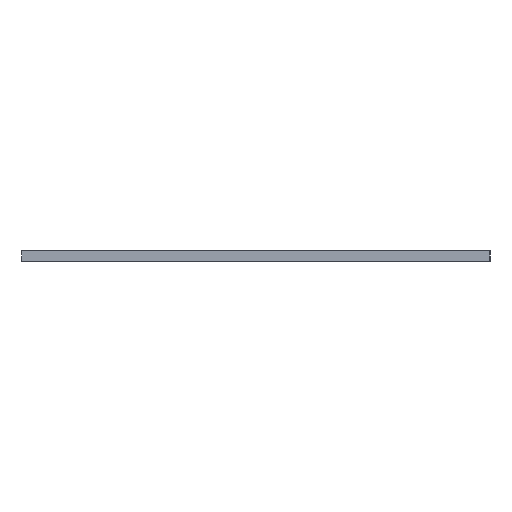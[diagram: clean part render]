
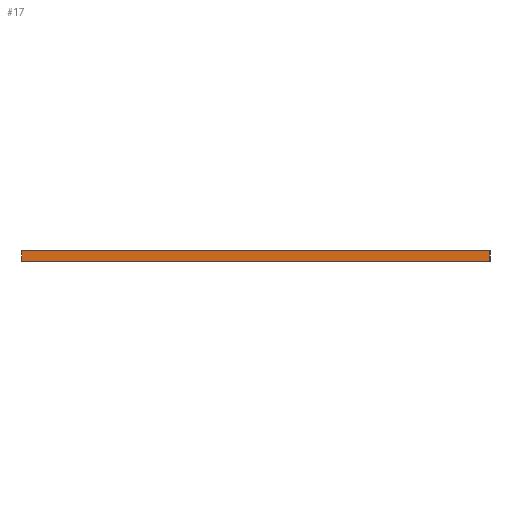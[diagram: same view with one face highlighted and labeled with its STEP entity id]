
A CAD part, left-side view. The second image highlights one B-rep face of the part: STEP entity #17.
In plain terms, the highlighted planar face has unit normal (-1, 0, 0).
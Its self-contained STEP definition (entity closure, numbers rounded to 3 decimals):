
#17 = ADVANCED_FACE('',(#18),#32,.F.);
#18 = FACE_BOUND('',#19,.F.);
#19 = EDGE_LOOP('',(#20,#55,#83,#111));
#20 = ORIENTED_EDGE('',*,*,#21,.F.);
#21 = EDGE_CURVE('',#22,#24,#26,.T.);
#22 = VERTEX_POINT('',#23);
#23 = CARTESIAN_POINT('',(-90.,-70.,0.));
#24 = VERTEX_POINT('',#25);
#25 = CARTESIAN_POINT('',(-90.,-70.,3.2));
#26 = SURFACE_CURVE('',#27,(#31,#43),.PCURVE_S1.);
#27 = LINE('',#28,#29);
#28 = CARTESIAN_POINT('',(-90.,-70.,0.));
#29 = VECTOR('',#30,1.);
#30 = DIRECTION('',(0.,0.,1.));
#31 = PCURVE('',#32,#37);
#32 = PLANE('',#33);
#33 = AXIS2_PLACEMENT_3D('',#34,#35,#36);
#34 = CARTESIAN_POINT('',(-90.,-70.,0.));
#35 = DIRECTION('',(1.,0.,-0.));
#36 = DIRECTION('',(0.,0.,1.));
#37 = DEFINITIONAL_REPRESENTATION('',(#38),#42);
#38 = LINE('',#39,#40);
#39 = CARTESIAN_POINT('',(0.,0.));
#40 = VECTOR('',#41,1.);
#41 = DIRECTION('',(1.,0.));
#42 = ( GEOMETRIC_REPRESENTATION_CONTEXT(2) 
PARAMETRIC_REPRESENTATION_CONTEXT() REPRESENTATION_CONTEXT('2D SPACE',''
  ) );
#43 = PCURVE('',#44,#49);
#44 = PLANE('',#45);
#45 = AXIS2_PLACEMENT_3D('',#46,#47,#48);
#46 = CARTESIAN_POINT('',(-90.,-70.,0.));
#47 = DIRECTION('',(-0.,1.,0.));
#48 = DIRECTION('',(0.,0.,1.));
#49 = DEFINITIONAL_REPRESENTATION('',(#50),#54);
#50 = LINE('',#51,#52);
#51 = CARTESIAN_POINT('',(0.,0.));
#52 = VECTOR('',#53,1.);
#53 = DIRECTION('',(1.,0.));
#54 = ( GEOMETRIC_REPRESENTATION_CONTEXT(2) 
PARAMETRIC_REPRESENTATION_CONTEXT() REPRESENTATION_CONTEXT('2D SPACE',''
  ) );
#55 = ORIENTED_EDGE('',*,*,#56,.T.);
#56 = EDGE_CURVE('',#22,#57,#59,.T.);
#57 = VERTEX_POINT('',#58);
#58 = CARTESIAN_POINT('',(-90.,70.,0.));
#59 = SURFACE_CURVE('',#60,(#64,#71),.PCURVE_S1.);
#60 = LINE('',#61,#62);
#61 = CARTESIAN_POINT('',(-90.,-70.,0.));
#62 = VECTOR('',#63,1.);
#63 = DIRECTION('',(-0.,1.,0.));
#64 = PCURVE('',#32,#65);
#65 = DEFINITIONAL_REPRESENTATION('',(#66),#70);
#66 = LINE('',#67,#68);
#67 = CARTESIAN_POINT('',(0.,0.));
#68 = VECTOR('',#69,1.);
#69 = DIRECTION('',(0.,-1.));
#70 = ( GEOMETRIC_REPRESENTATION_CONTEXT(2) 
PARAMETRIC_REPRESENTATION_CONTEXT() REPRESENTATION_CONTEXT('2D SPACE',''
  ) );
#71 = PCURVE('',#72,#77);
#72 = PLANE('',#73);
#73 = AXIS2_PLACEMENT_3D('',#74,#75,#76);
#74 = CARTESIAN_POINT('',(-90.,-70.,0.));
#75 = DIRECTION('',(0.,0.,1.));
#76 = DIRECTION('',(1.,0.,-0.));
#77 = DEFINITIONAL_REPRESENTATION('',(#78),#82);
#78 = LINE('',#79,#80);
#79 = CARTESIAN_POINT('',(0.,0.));
#80 = VECTOR('',#81,1.);
#81 = DIRECTION('',(0.,1.));
#82 = ( GEOMETRIC_REPRESENTATION_CONTEXT(2) 
PARAMETRIC_REPRESENTATION_CONTEXT() REPRESENTATION_CONTEXT('2D SPACE',''
  ) );
#83 = ORIENTED_EDGE('',*,*,#84,.T.);
#84 = EDGE_CURVE('',#57,#85,#87,.T.);
#85 = VERTEX_POINT('',#86);
#86 = CARTESIAN_POINT('',(-90.,70.,3.2));
#87 = SURFACE_CURVE('',#88,(#92,#99),.PCURVE_S1.);
#88 = LINE('',#89,#90);
#89 = CARTESIAN_POINT('',(-90.,70.,0.));
#90 = VECTOR('',#91,1.);
#91 = DIRECTION('',(0.,0.,1.));
#92 = PCURVE('',#32,#93);
#93 = DEFINITIONAL_REPRESENTATION('',(#94),#98);
#94 = LINE('',#95,#96);
#95 = CARTESIAN_POINT('',(0.,-140.));
#96 = VECTOR('',#97,1.);
#97 = DIRECTION('',(1.,0.));
#98 = ( GEOMETRIC_REPRESENTATION_CONTEXT(2) 
PARAMETRIC_REPRESENTATION_CONTEXT() REPRESENTATION_CONTEXT('2D SPACE',''
  ) );
#99 = PCURVE('',#100,#105);
#100 = PLANE('',#101);
#101 = AXIS2_PLACEMENT_3D('',#102,#103,#104);
#102 = CARTESIAN_POINT('',(-90.,70.,0.));
#103 = DIRECTION('',(-0.,1.,0.));
#104 = DIRECTION('',(0.,0.,1.));
#105 = DEFINITIONAL_REPRESENTATION('',(#106),#110);
#106 = LINE('',#107,#108);
#107 = CARTESIAN_POINT('',(0.,0.));
#108 = VECTOR('',#109,1.);
#109 = DIRECTION('',(1.,0.));
#110 = ( GEOMETRIC_REPRESENTATION_CONTEXT(2) 
PARAMETRIC_REPRESENTATION_CONTEXT() REPRESENTATION_CONTEXT('2D SPACE',''
  ) );
#111 = ORIENTED_EDGE('',*,*,#112,.F.);
#112 = EDGE_CURVE('',#24,#85,#113,.T.);
#113 = SURFACE_CURVE('',#114,(#118,#125),.PCURVE_S1.);
#114 = LINE('',#115,#116);
#115 = CARTESIAN_POINT('',(-90.,-70.,3.2));
#116 = VECTOR('',#117,1.);
#117 = DIRECTION('',(-0.,1.,0.));
#118 = PCURVE('',#32,#119);
#119 = DEFINITIONAL_REPRESENTATION('',(#120),#124);
#120 = LINE('',#121,#122);
#121 = CARTESIAN_POINT('',(3.2,0.));
#122 = VECTOR('',#123,1.);
#123 = DIRECTION('',(0.,-1.));
#124 = ( GEOMETRIC_REPRESENTATION_CONTEXT(2) 
PARAMETRIC_REPRESENTATION_CONTEXT() REPRESENTATION_CONTEXT('2D SPACE',''
  ) );
#125 = PCURVE('',#126,#131);
#126 = PLANE('',#127);
#127 = AXIS2_PLACEMENT_3D('',#128,#129,#130);
#128 = CARTESIAN_POINT('',(-90.,-70.,3.2));
#129 = DIRECTION('',(0.,0.,1.));
#130 = DIRECTION('',(1.,0.,-0.));
#131 = DEFINITIONAL_REPRESENTATION('',(#132),#136);
#132 = LINE('',#133,#134);
#133 = CARTESIAN_POINT('',(0.,0.));
#134 = VECTOR('',#135,1.);
#135 = DIRECTION('',(0.,1.));
#136 = ( GEOMETRIC_REPRESENTATION_CONTEXT(2) 
PARAMETRIC_REPRESENTATION_CONTEXT() REPRESENTATION_CONTEXT('2D SPACE',''
  ) );
